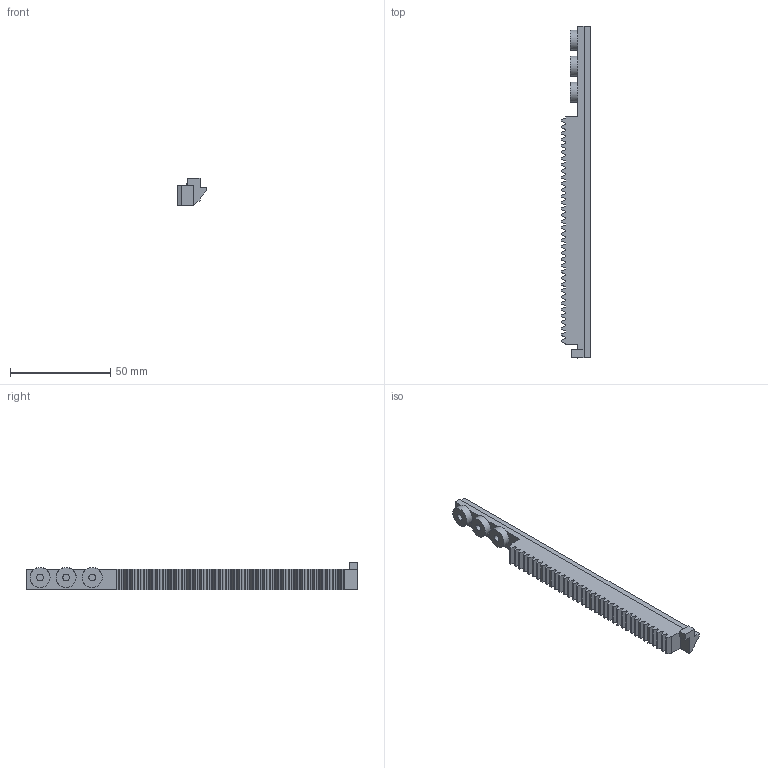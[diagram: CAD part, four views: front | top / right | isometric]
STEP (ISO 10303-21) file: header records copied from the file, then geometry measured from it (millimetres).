
FILE_DESCRIPTION(('Open CASCADE Model'),'2;1');
FILE_NAME('Open CASCADE Shape Model','2026-10-18T02:27:58',('Author'),( 'Open CASCADE'),'Open CASCADE STEP processor 7.9','Open CASCADE 7.9' ,'Unknown');
FILE_SCHEMA(('AUTOMOTIVE_DESIGN { 1 0 10303 214 1 1 1 1 }'));
Length unit declared in the file: millimetre
Products named in the file (1): Open CASCADE STEP translator 7.9 17
Bounding box: 14.85 x 165.6 x 13.5 mm (x, y, z)
Volume: 15427 mm3; surface area: 8551.1 mm2
Topology: 1 solids, 1 shells, 178 faces, 518 edges, 345 vertices
Faces by surface type: plane 172, cylinder 6
Full cylindrical faces by diameter (mm): 3.3 x3, 10 x3
Entity records: 12520 total; most frequent: CARTESIAN_POINT 2155, DIRECTION 1898, LINE 1495, VECTOR 1495, ORIENTED_EDGE 1036, PCURVE 1036, DEFINITIONAL_REPRESENTATION 1036, EDGE_CURVE 518
